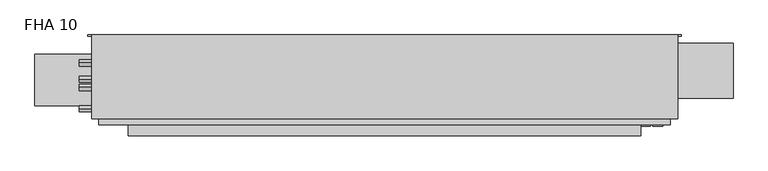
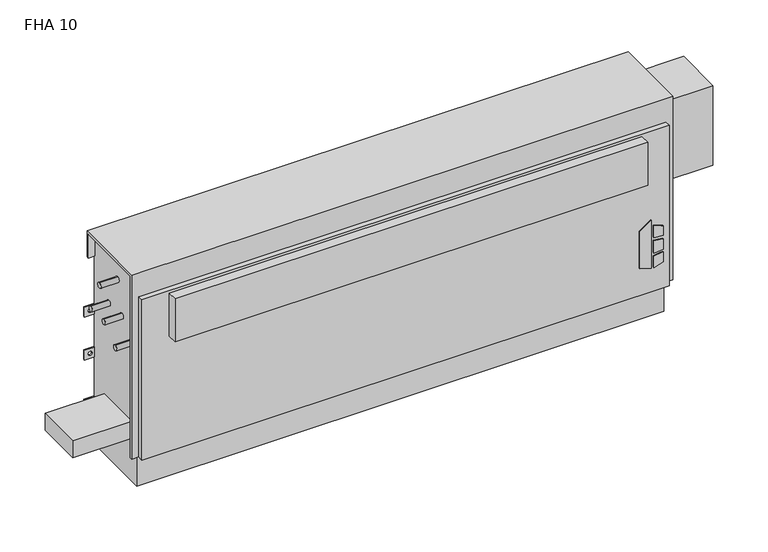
"""IFC4 building model written with IfcOpenShell, lengths in millimetres: proxy geometry, Vertical_Fan_Coil_Unit_-_FHA_-_IEC_-_4-Pipe_FS-FR_LH_2022 : FHA 10."""

import ifcopenshell
import ifcopenshell.guid

model = None  # the IFC model being written
_history = None  # IfcOwnerHistory: only IFC2X3 demands one
_inside = {}  # id of a spatial element -> (the spatial element, [elements in it])
_under = {}  # id of a project, library or spatial element -> (it, [spatial elements below it])
_declared = {}  # id of a project -> (the project, [libraries it declares])
_typed = {}  # id of a type object -> (the type object, [elements of that type])
_made_of = {}  # id of a material, layer set ... -> (it, [elements and type objects made of it])


def new_model(schema):
    """Start an empty IFC model of exactly this schema.

    Asked for "IFC4X3", IfcOpenShell would pick the latest addendum, in which some entities
    have other attributes; the version numbers below select the first issue.
    IFC2X3 requires an IfcOwnerHistory on every rooted entity: one is made here for all.
    """
    global model, _history
    if schema == "IFC4X3":
        model = ifcopenshell.file(schema_version=(4, 3, 0, 0))
    else:
        model = ifcopenshell.file(schema=schema)
    _inside.clear()
    _under.clear()
    _declared.clear()
    _typed.clear()
    _made_of.clear()
    _history = None
    if model.schema == "IFC2X3":
        org = make("IfcOrganization", Name="unknown")
        user = make(
            "IfcPersonAndOrganization",
            ThePerson=make("IfcPerson", FamilyName="unknown"),
            TheOrganization=org,
        )
        app = make(
            "IfcApplication",
            ApplicationDeveloper=org,
            Version="unknown",
            ApplicationFullName="unknown",
            ApplicationIdentifier="unknown",
        )
        _history = make(
            "IfcOwnerHistory",
            OwningUser=user,
            OwningApplication=app,
            ChangeAction="ADDED",
            CreationDate=0,
        )
    return model


def make(cls, **values):
    """One entity of the class cls with the attributes given. An attribute that is None is left unset."""
    return model.create_entity(
        cls, **{name: value for name, value in values.items() if value is not None}
    )


def rooted(cls, **values):
    """An entity with a GlobalId (a new one), such as an element, a storey or a relation."""
    return make(cls, GlobalId=ifcopenshell.guid.new(), OwnerHistory=_history, **values)


def si_unit(unit_type, name, prefix=None):
    """IfcSIUnit, for example si_unit("LENGTHUNIT", "METRE", prefix="MILLI")."""
    return make("IfcSIUnit", UnitType=unit_type, Prefix=prefix, Name=name)


def assignment(units):
    """IfcUnitAssignment: the units of a project."""
    return None if units is None else make("IfcUnitAssignment", Units=units)


def point(xyz):
    """IfcCartesianPoint."""
    return None if xyz is None else make("IfcCartesianPoint", Coordinates=xyz)


def direction(xyz):
    """IfcDirection."""
    return None if xyz is None else make("IfcDirection", DirectionRatios=xyz)


def frame(location, z_axis=None, x_axis=None):
    """IfcAxis2Placement3D, a coordinate frame: its origin and axes. An axis left out is left unset."""
    return make(
        "IfcAxis2Placement3D",
        Location=point(location),
        Axis=direction(z_axis),
        RefDirection=direction(x_axis),
    )


def frame_2d(location, x_axis=None):
    """IfcAxis2Placement2D, a coordinate frame in the plane: its origin and x axis."""
    return make(
        "IfcAxis2Placement2D", Location=point(location), RefDirection=direction(x_axis)
    )


def origin():
    """The frame at (0, 0, 0) with its axes left unset."""
    return frame((0.0, 0.0, 0.0))


def place(relative_to, where):
    """IfcLocalPlacement: puts the frame where relative to a parent placement (None: the world)."""
    return make(
        "IfcLocalPlacement", PlacementRelTo=relative_to, RelativePlacement=where
    )


def context(
    kind, dimensions, precision=None, world=None, true_north=None, identifier=None
):
    """IfcGeometricRepresentationContext, for example the 3D "Model" context."""
    return make(
        "IfcGeometricRepresentationContext",
        ContextIdentifier=identifier,
        ContextType=kind,
        CoordinateSpaceDimension=dimensions,
        Precision=precision,
        WorldCoordinateSystem=world,
        TrueNorth=true_north,
    )


def project(units=None, contexts=None):
    """IfcProject with its units and contexts."""
    return rooted(
        "IfcProject",
        Name="project",
        RepresentationContexts=contexts,
        UnitsInContext=assignment(units),
    )


def spatial(cls, under=None, at=None, **own):
    """A site, building, storey or space (cls), placed at a placement, below another one or the project."""
    s = rooted(cls, ObjectPlacement=at, **own)
    if under is not None:
        _under.setdefault(under.id(), (under, []))[1].append(s)
    return s


def polyline(points):
    """IfcPolyline through the points."""
    return make("IfcPolyline", Points=[point(p) for p in points])


def circle_curve(where, radius):
    """IfcCircle in the frame where."""
    return make("IfcCircle", Position=where, Radius=radius)


def trimmed(basis, trim1, trim2, sense, master):
    """IfcTrimmedCurve: the piece of a basis curve between two trims."""
    return make(
        "IfcTrimmedCurve",
        BasisCurve=basis,
        Trim1=trim1,
        Trim2=trim2,
        SenseAgreement=sense,
        MasterRepresentation=master,
    )


def segment(curve, same_sense, transition):
    """IfcCompositeCurveSegment."""
    return make(
        "IfcCompositeCurveSegment",
        Transition=transition,
        SameSense=same_sense,
        ParentCurve=curve,
    )


def composite_curve(segments, self_intersect=None):
    """IfcCompositeCurve: segments joined end to end."""
    return make("IfcCompositeCurve", Segments=segments, SelfIntersect=self_intersect)


def outline(outer, holes=None, kind="AREA"):
    """IfcArbitraryClosedProfileDef: a profile drawn as a closed curve; with holes, ...WithVoids."""
    if holes is None:
        return make("IfcArbitraryClosedProfileDef", ProfileType=kind, OuterCurve=outer)
    return make(
        "IfcArbitraryProfileDefWithVoids",
        ProfileType=kind,
        OuterCurve=outer,
        InnerCurves=holes,
    )


def extrude(swept, where, along, depth):
    """IfcExtrudedAreaSolid: the profile swept, set in the frame where, extruded along a direction by depth."""
    return make(
        "IfcExtrudedAreaSolid",
        SweptArea=swept,
        Position=where,
        ExtrudedDirection=direction(along),
        Depth=depth,
    )


def shape(context_of_items, identifier, shape_type, items):
    """IfcShapeRepresentation: the items that make up one representation, for example the "Body"."""
    return make(
        "IfcShapeRepresentation",
        ContextOfItems=context_of_items,
        RepresentationIdentifier=identifier,
        RepresentationType=shape_type,
        Items=items,
    )


def source(mapping_origin, context_of_items, identifier, shape_type, items):
    """IfcRepresentationMap: a shape defined once, which mapped items show again and again."""
    return make(
        "IfcRepresentationMap",
        MappingOrigin=mapping_origin,
        MappedRepresentation=shape(context_of_items, identifier, shape_type, items),
    )


def transform(
    local_origin,
    x_axis=None,
    y_axis=None,
    z_axis=None,
    scale=None,
    scale2=None,
    scale3=None,
    uniform=True,
):
    """IfcCartesianTransformationOperator3D, or its non-uniform kind. x_axis, y_axis, z_axis: its Axis1, 2, 3."""
    if uniform:
        return make(
            "IfcCartesianTransformationOperator3D",
            Axis1=direction(x_axis),
            Axis2=direction(y_axis),
            LocalOrigin=point(local_origin),
            Scale=scale,
            Axis3=direction(z_axis),
        )
    return make(
        "IfcCartesianTransformationOperator3DnonUniform",
        Axis1=direction(x_axis),
        Axis2=direction(y_axis),
        LocalOrigin=point(local_origin),
        Scale=scale,
        Axis3=direction(z_axis),
        Scale2=scale2,
        Scale3=scale3,
    )


def mapped(mapping_source, mapping_target):
    """IfcMappedItem: shows the shape of a source again, moved by a transform."""
    return make(
        "IfcMappedItem", MappingSource=mapping_source, MappingTarget=mapping_target
    )


def made_of(thing, what):
    """Note that an element or type object is made of a material, layer set ...; save() writes the relation."""
    if what is not None:
        _made_of.setdefault(what.id(), (what, []))[1].append(thing)
    return thing


def element(
    cls,
    number,
    at=None,
    inside=None,
    cuts=None,
    type_object=None,
    material=None,
    context=None,
    identifier="Body",
    shape_type=None,
    held_by="IfcProductDefinitionShape",
    body=None,
    shapes=None,
    **own,
):
    """One element of the class cls, such as IfcWall. Its Tag is "e" and its number.

    at: its placement. inside: the storey or other place that contains it. cuts: it is an
    opening in that element (IfcRelVoidsElement). A single representation is given by context,
    identifier, shape_type and body (its items); several are given by shapes. held_by: the class
    of the entity that holds the representations. save() writes the other relations.
    """
    e = rooted(cls, Tag="e%d" % number, ObjectPlacement=at, **own)
    if body is not None:
        shapes = [shape(context, identifier, shape_type, body)]
    if shapes is not None:
        e.Representation = make(held_by, Representations=shapes)
    if inside is not None:
        _inside.setdefault(inside.id(), (inside, []))[1].append(e)
    if cuts is not None:
        rooted(
            "IfcRelVoidsElement", RelatingBuildingElement=cuts, RelatedOpeningElement=e
        )
    if type_object is not None:
        _typed.setdefault(type_object.id(), (type_object, []))[1].append(e)
    return made_of(e, material)


def aggregate(whole, parts):
    """IfcRelAggregates: a whole, such as a stair, and the parts it consists of."""
    return rooted("IfcRelAggregates", RelatingObject=whole, RelatedObjects=parts)


def save(model, path):
    """Write the relations noted so far, then the file.

    IfcRelAggregates (storeys below a building ...), IfcRelContainedInSpatialStructure (elements
    in a storey), IfcRelDefinesByType, IfcRelAssociatesMaterial and IfcRelDeclares: one each for
    every whole, place, type object, material and project.
    """
    for whole, parts in _under.values():
        aggregate(whole, parts)
    for where, things in _inside.values():
        rooted(
            "IfcRelContainedInSpatialStructure",
            RelatedElements=things,
            RelatingStructure=where,
        )
    for kind, things in _typed.values():
        rooted("IfcRelDefinesByType", RelatedObjects=things, RelatingType=kind)
    for what, things in _made_of.values():
        rooted("IfcRelAssociatesMaterial", RelatedObjects=things, RelatingMaterial=what)
    for by, libraries in _declared.values():
        rooted("IfcRelDeclares", RelatingContext=by, RelatedDefinitions=libraries)
    model.write(path)


def plane_surface(at):
    """IfcPlane: the flat surface through the origin of the frame at, square to its z axis."""
    return make("IfcPlane", Position=at)


def revolved_surface(curve, axis_point, axis_direction):
    """IfcSurfaceOfRevolution: the curve turned about the line through axis_point along axis_direction."""
    return make(
        "IfcSurfaceOfRevolution",
        SweptCurve=make("IfcArbitraryOpenProfileDef", ProfileType="CURVE", Curve=curve),
        AxisPosition=make("IfcAxis1Placement", Location=point(axis_point), Axis=direction(axis_direction)),
    )


def advanced_brep(points, edges, surfaces, faces):
    """IfcAdvancedBrep: a solid bounded by faces that lie on surfaces and meet in shared edges.

    An edge is (start, end): straight between two places in points (the first is 0);
    or (start, end, curve); or (start, end, curve, False) where it runs against its curve.
    A face is (place in surfaces, loops), or (place, loops, False) where it looks against
    its surface's normal. A loop lists edges by number (the first is 1), with a minus sign
    where the edge is run from its end to its start. The first loop is the outer one.
    """
    corners = [point(p) for p in points]
    vertices = [make("IfcVertexPoint", VertexGeometry=c) for c in corners]
    made = []
    for start, end, *more in edges:
        made.append(
            make(
                "IfcEdgeCurve",
                EdgeStart=vertices[start],
                EdgeEnd=vertices[end],
                EdgeGeometry=more[0] if more else make("IfcPolyline", Points=[corners[start], corners[end]]),
                SameSense=more[1] if len(more) > 1 else True,
            )
        )
    hull = []
    for where, loops, *sense in faces:
        bounds = []
        for j, loop in enumerate(loops):
            ring = [make("IfcOrientedEdge", EdgeElement=made[abs(k) - 1], Orientation=k > 0) for k in loop]
            bounds.append(
                make(
                    "IfcFaceOuterBound" if j == 0 else "IfcFaceBound",
                    Bound=make("IfcEdgeLoop", EdgeList=ring),
                    Orientation=True,
                )
            )
        hull.append(make("IfcAdvancedFace", Bounds=bounds, FaceSurface=surfaces[where], SameSense=sense[0] if sense else True))
    return make("IfcAdvancedBrep", Outer=make("IfcClosedShell", CfsFaces=hull))


def fha_10_918f5362(model_context):
    return source(origin(), model_context, "Body", "SolidModel", [
        extrude(outline(polyline([(172.5771459, 804.9368862), (162.6290756, 837.1102728), (304.8, 837.1102728), (281.7779939, 804.9368862), (172.5771459, 804.9368862)])), frame((0.0, 9.525, 0.0), z_axis=(0.0, 1.0, 0.0), x_axis=(0.0, 0.0, 1.0)), (0.0, 0.0, 1.0), 3.175),
        extrude(outline(polyline([(251.5764313, 843.8686058), (248.3740387, 869.95), (277.6028798, 869.95), (285.6672948, 843.8686058), (251.5764313, 843.8686058)])), frame((0.0, 9.525, 0.0), z_axis=(0.0, 1.0, 0.0), x_axis=(0.0, 0.0, 1.0)), (0.0, 0.0, 1.0), 3.175),
        extrude(outline(polyline([(199.7129044, 869.95), (196.0474034, 843.8686058), (162.6290756, 843.8686058), (171.2633128, 869.95), (199.7129044, 869.95)])), frame((0.0, 9.525, 0.0), z_axis=(0.0, 1.0, 0.0), x_axis=(0.0, 0.0, 1.0)), (0.0, 0.0, 1.0), 3.175),
        extrude(outline(polyline([(239.0280658, 869.95), (241.3098921, 843.8686058), (205.3723436, 843.8686058), (208.1136086, 869.95), (239.0280658, 869.95)])), frame((0.0, 9.525, 0.0), z_axis=(0.0, 1.0, 0.0), x_axis=(0.0, 0.0, 1.0)), (0.0, 0.0, 1.0), 3.175),
        extrude(outline(composite_curve([segment(trimmed(circle_curve(frame_2d((-647.7, 128.5875)), 9.525), [point((-657.225, 128.5875))], [point((-638.175, 128.5875))], False, "CARTESIAN"), True, "CONTINUOUS"), segment(trimmed(circle_curve(frame_2d((-647.7, 128.5875)), 9.525), [point((-638.175, 128.5875))], [point((-657.225, 128.5875))], False, "CARTESIAN"), True, "CONTINUOUS")], self_intersect=False)), frame((0.0, 0.0, 101.6), z_axis=(0.0, 0.0, 1.0), x_axis=(1.0, 0.0, 0.0)), (0.0, 0.0, 1.0), 25.4),
        extrude(outline(polyline([(-749.3, 61.9125), (-749.3, 195.2625), (-584.2, 195.2625), (-584.2, 61.9125), (-749.3, 61.9125)])), frame((0.0, 0.0, 127.0), z_axis=(0.0, 0.0, 1.0), x_axis=(1.0, 0.0, 0.0)), (0.0, 0.0, 1.0), 50.8),
        extrude(outline(polyline([(812.8, -15.875), (-508.0, -15.875), (-508.0, 12.7), (812.8, 12.7), (812.8, -15.875)])), frame((0.0, 0.0, 431.8), z_axis=(0.0, 0.0, 1.0), x_axis=(1.0, 0.0, 0.0)), (0.0, 0.0, 1.0), 127.0),
        extrude(outline(composite_curve([segment(trimmed(circle_curve(frame_2d((109.0168, 460.0194)), 7.9375), [point((109.0168, 467.9569))], [point((109.0168, 452.0819))], False, "CARTESIAN"), True, "CONTINUOUS"), segment(trimmed(circle_curve(frame_2d((109.0168, 460.0194)), 7.9375), [point((109.0168, 452.0819))], [point((109.0168, 467.9569))], False, "CARTESIAN"), True, "CONTINUOUS")], self_intersect=False)), frame((-635.0, 0.0, 0.0), z_axis=(1.0, 0.0, 0.0), x_axis=(0.0, 1.0, 0.0)), (0.0, 0.0, 1.0), 50.8),
        extrude(outline(composite_curve([segment(trimmed(circle_curve(frame_2d((172.085, 460.0194)), 7.9375), [point((172.085, 467.9569))], [point((172.085, 452.0819))], False, "CARTESIAN"), True, "CONTINUOUS"), segment(trimmed(circle_curve(frame_2d((172.085, 460.0194)), 7.9375), [point((172.085, 452.0819))], [point((172.085, 467.9569))], False, "CARTESIAN"), True, "CONTINUOUS")], self_intersect=False)), frame((-635.0, 0.0, 0.0), z_axis=(1.0, 0.0, 0.0), x_axis=(0.0, 1.0, 0.0)), (0.0, 0.0, 1.0), 50.8),
        extrude(outline(composite_curve([segment(trimmed(circle_curve(frame_2d((130.175, 554.99)), 7.9502), [point((130.175, 562.9402))], [point((130.175, 547.0398))], False, "CARTESIAN"), True, "CONTINUOUS"), segment(trimmed(circle_curve(frame_2d((130.175, 554.99)), 7.9502), [point((130.175, 547.0398))], [point((130.175, 562.9402))], False, "CARTESIAN"), True, "CONTINUOUS")], self_intersect=False)), frame((-635.0, 0.0, 0.0), z_axis=(1.0, 0.0, 0.0), x_axis=(0.0, 1.0, 0.0)), (0.0, 0.0, 1.0), 50.8),
        extrude(outline(composite_curve([segment(trimmed(circle_curve(frame_2d((53.975, 416.56)), 7.9502), [point((53.975, 424.5102))], [point((53.975, 408.6098))], False, "CARTESIAN"), True, "CONTINUOUS"), segment(trimmed(circle_curve(frame_2d((53.975, 416.56)), 7.9502), [point((53.975, 408.6098))], [point((53.975, 424.5102))], False, "CARTESIAN"), True, "CONTINUOUS")], self_intersect=False)), frame((-635.0, 0.0, 0.0), z_axis=(1.0, 0.0, 0.0), x_axis=(0.0, 1.0, 0.0)), (0.0, 0.0, 1.0), 50.8),
        extrude(outline(polyline([(1050.925, 223.266), (1050.925, 81.534), (889.0, 81.534), (889.0, 223.266), (1050.925, 223.266)])), frame((0.0, 0.0, 349.25), z_axis=(0.0, 0.0, 1.0), x_axis=(1.0, 0.0, 0.0)), (0.0, 0.0, 1.0), 234.95),
        advanced_brep(
        [(908.05, 244.475, 635.0), (-603.25, 244.475, 635.0), (-603.25, 28.575, 635.0), (908.05, 28.575, 635.0), (-584.2, 244.475, 0.0), (889.0, 244.475, 0.0), (889.0, 38.1, 0.0), (-584.2, 38.1, 0.0), (908.05, 244.475, 558.8), (889.0, 244.475, 558.8), (889.0, 244.475, 414.3375), (917.575, 244.475, 414.3375), (917.575, 244.475, 385.7625), (889.0, 244.475, 385.7625), (889.0, 244.475, 287.3375), (917.575, 244.475, 287.3375), (917.575, 244.475, 258.7625), (889.0, 244.475, 258.7625), (889.0, 244.475, 141.2875), (917.575, 244.475, 141.2875), (917.575, 244.475, 112.7125), (889.0, 244.475, 112.7125), (-584.2, 244.475, 112.7125), (-612.775, 244.475, 112.7125), (-612.775, 244.475, 141.2875), (-584.2, 244.475, 141.2875), (-584.2, 244.475, 258.7625), (-612.775, 244.475, 258.7625), (-612.775, 244.475, 287.3375), (-584.2, 244.475, 287.3375), (-584.2, 244.475, 385.7625), (-612.775, 244.475, 385.7625), (-612.775, 244.475, 414.3375), (-584.2, 244.475, 414.3375), (-584.2, 244.475, 558.8), (-603.25, 244.475, 558.8), (907.2626, 244.475, 127.0), (896.1374, 244.475, 127.0), (-591.3374, 244.475, 127.0), (-602.4626, 244.475, 127.0), (907.2626, 244.475, 273.05), (896.1374, 244.475, 273.05), (-591.3374, 244.475, 273.05), (-602.4626, 244.475, 273.05), (907.2626, 244.475, 400.05), (896.1374, 244.475, 400.05), (-591.3374, 244.475, 400.05), (-602.4626, 244.475, 400.05), (-603.25, 238.125, 558.8), (-603.25, 238.125, 628.65), (-603.25, 34.925, 628.65), (-603.25, 34.925, 92.075), (-603.25, 28.575, 92.075), (889.0, 12.7, 565.15), (-584.2, 12.7, 565.15), (-584.2, 12.7, 92.075), (889.0, 12.7, 92.075), (908.05, 28.575, 92.075), (908.05, 34.925, 92.075), (908.05, 34.925, 628.65), (908.05, 238.125, 628.65), (908.05, 238.125, 558.8), (-584.2, 28.575, 92.075), (-584.2, 28.575, 565.15), (889.0, 28.575, 565.15), (889.0, 28.575, 92.075), (-584.2, 34.925, 92.075), (-584.2, 38.1, 92.075), (889.0, 38.1, 92.075), (889.0, 34.925, 92.075), (889.0, 241.3, 112.7125), (889.0, 241.3, 141.2875), (889.0, 241.3, 258.7625), (889.0, 241.3, 287.3375), (889.0, 241.3, 385.7625), (889.0, 241.3, 414.3375), (889.0, 238.125, 558.8), (889.0, 238.125, 628.65), (889.0, 34.925, 628.65), (-584.2, 34.925, 628.65), (-584.2, 238.125, 628.65), (-584.2, 238.125, 558.8), (-584.2, 241.3, 414.3375), (-584.2, 241.3, 385.7625), (-584.2, 241.3, 287.3375), (-584.2, 241.3, 258.7625), (-584.2, 241.3, 141.2875), (-584.2, 241.3, 112.7125), (917.575, 241.3, 112.7125), (917.575, 241.3, 141.2875), (896.1374, 241.3, 127.0), (907.2626, 241.3, 127.0), (917.575, 241.3, 258.7625), (917.575, 241.3, 287.3375), (896.1374, 241.3, 273.05), (907.2626, 241.3, 273.05), (917.575, 241.3, 385.7625), (917.575, 241.3, 414.3375), (896.1374, 241.3, 400.05), (907.2626, 241.3, 400.05), (-612.775, 241.3, 141.2875), (-612.775, 241.3, 112.7125), (-602.4626, 241.3, 127.0), (-591.3374, 241.3, 127.0), (-612.775, 241.3, 287.3375), (-612.775, 241.3, 258.7625), (-602.4626, 241.3, 273.05), (-591.3374, 241.3, 273.05), (-612.775, 241.3, 414.3375), (-612.775, 241.3, 385.7625), (-602.4626, 241.3, 400.05), (-591.3374, 241.3, 400.05)],
        [
            (0, 1),
            (1, 2),
            (2, 3),
            (3, 0),
            (4, 5),
            (5, 6),
            (6, 7),
            (7, 4),
            (0, 8),
            (8, 9),
            (9, 10),
            (10, 11),
            (11, 12),
            (12, 13),
            (13, 14),
            (14, 15),
            (15, 16),
            (16, 17),
            (17, 18),
            (18, 19),
            (19, 20),
            (20, 21),
            (21, 5),
            (4, 22),
            (22, 23),
            (23, 24),
            (24, 25),
            (25, 26),
            (26, 27),
            (27, 28),
            (28, 29),
            (29, 30),
            (30, 31),
            (31, 32),
            (32, 33),
            (33, 34),
            (34, 35),
            (35, 1),
            (36, 37, circle_curve(frame((901.7, 244.475, 127.0), z_axis=(0.0, -1.0, 0.0), x_axis=(-1.0, 0.0, 0.0)), 5.5626)),
            (37, 36, circle_curve(frame((901.7, 244.475, 127.0), z_axis=(0.0, -1.0, 0.0), x_axis=(-1.0, 0.0, 0.0)), 5.5626)),
            (38, 39, circle_curve(frame((-596.9, 244.475, 127.0), z_axis=(0.0, -1.0, 0.0), x_axis=(-1.0, 0.0, 0.0)), 5.5626)),
            (39, 38, circle_curve(frame((-596.9, 244.475, 127.0), z_axis=(0.0, -1.0, 0.0), x_axis=(-1.0, 0.0, 0.0)), 5.5626)),
            (40, 41, circle_curve(frame((901.7, 244.475, 273.05), z_axis=(0.0, -1.0, 0.0), x_axis=(-1.0, 0.0, 0.0)), 5.5626)),
            (41, 40, circle_curve(frame((901.7, 244.475, 273.05), z_axis=(0.0, -1.0, 0.0), x_axis=(-1.0, 0.0, 0.0)), 5.5626)),
            (42, 43, circle_curve(frame((-596.9, 244.475, 273.05), z_axis=(0.0, -1.0, 0.0), x_axis=(-1.0, 0.0, 0.0)), 5.5626)),
            (43, 42, circle_curve(frame((-596.9, 244.475, 273.05), z_axis=(0.0, -1.0, 0.0), x_axis=(-1.0, 0.0, 0.0)), 5.5626)),
            (44, 45, circle_curve(frame((901.7, 244.475, 400.05), z_axis=(0.0, -1.0, 0.0), x_axis=(-1.0, 0.0, 0.0)), 5.5626)),
            (45, 44, circle_curve(frame((901.7, 244.475, 400.05), z_axis=(0.0, -1.0, 0.0), x_axis=(-1.0, 0.0, 0.0)), 5.5626)),
            (46, 47, circle_curve(frame((-596.9, 244.475, 400.05), z_axis=(0.0, -1.0, 0.0), x_axis=(-1.0, 0.0, 0.0)), 5.5626)),
            (47, 46, circle_curve(frame((-596.9, 244.475, 400.05), z_axis=(0.0, -1.0, 0.0), x_axis=(-1.0, 0.0, 0.0)), 5.5626)),
            (35, 48),
            (48, 49),
            (49, 50),
            (50, 51),
            (51, 52),
            (52, 2),
            (53, 54),
            (54, 55),
            (55, 56),
            (56, 53),
            (3, 57),
            (57, 58),
            (58, 59),
            (59, 60),
            (60, 61),
            (61, 8),
            (52, 62),
            (62, 63),
            (63, 64),
            (64, 65),
            (65, 57),
            (53, 64),
            (63, 54),
            (55, 62),
            (51, 66),
            (66, 67),
            (67, 68),
            (68, 69),
            (69, 58),
            (65, 56),
            (6, 68),
            (67, 7),
            (21, 70),
            (70, 71),
            (71, 18),
            (17, 72),
            (72, 73),
            (73, 14),
            (13, 74),
            (74, 75),
            (75, 10),
            (9, 76),
            (76, 77),
            (77, 78),
            (78, 69),
            (66, 79),
            (79, 80),
            (80, 81),
            (81, 34),
            (33, 82),
            (82, 83),
            (83, 30),
            (29, 84),
            (84, 85),
            (85, 26),
            (25, 86),
            (86, 87),
            (87, 22),
            (76, 61),
            (60, 77),
            (78, 59),
            (50, 79),
            (81, 48),
            (80, 49),
            (70, 88),
            (88, 89),
            (89, 71),
            (90, 91, circle_curve(frame((901.7, 241.3, 127.0), z_axis=(0.0, 1.0, 0.0), x_axis=(-1.0, 0.0, 0.0)), 5.5626)),
            (91, 90, circle_curve(frame((901.7, 241.3, 127.0), z_axis=(0.0, 1.0, 0.0), x_axis=(-1.0, 0.0, 0.0)), 5.5626)),
            (92, 93),
            (93, 73),
            (72, 92),
            (94, 95, circle_curve(frame((901.7, 241.3, 273.05), z_axis=(0.0, 1.0, 0.0), x_axis=(-1.0, 0.0, 0.0)), 5.5626)),
            (95, 94, circle_curve(frame((901.7, 241.3, 273.05), z_axis=(0.0, 1.0, 0.0), x_axis=(-1.0, 0.0, 0.0)), 5.5626)),
            (96, 97),
            (97, 75),
            (74, 96),
            (98, 99, circle_curve(frame((901.7, 241.3, 400.05), z_axis=(0.0, 1.0, 0.0), x_axis=(-1.0, 0.0, 0.0)), 5.5626)),
            (99, 98, circle_curve(frame((901.7, 241.3, 400.05), z_axis=(0.0, 1.0, 0.0), x_axis=(-1.0, 0.0, 0.0)), 5.5626)),
            (100, 101),
            (101, 87),
            (86, 100),
            (102, 103, circle_curve(frame((-596.9, 241.3, 127.0), z_axis=(0.0, 1.0, 0.0), x_axis=(-1.0, 0.0, 0.0)), 5.5626)),
            (103, 102, circle_curve(frame((-596.9, 241.3, 127.0), z_axis=(0.0, 1.0, 0.0), x_axis=(-1.0, 0.0, 0.0)), 5.5626)),
            (84, 104),
            (104, 105),
            (105, 85),
            (106, 107, circle_curve(frame((-596.9, 241.3, 273.05), z_axis=(0.0, 1.0, 0.0), x_axis=(-1.0, 0.0, 0.0)), 5.5626)),
            (107, 106, circle_curve(frame((-596.9, 241.3, 273.05), z_axis=(0.0, 1.0, 0.0), x_axis=(-1.0, 0.0, 0.0)), 5.5626)),
            (108, 109),
            (109, 83),
            (82, 108),
            (110, 111, circle_curve(frame((-596.9, 241.3, 400.05), z_axis=(0.0, 1.0, 0.0), x_axis=(-1.0, 0.0, 0.0)), 5.5626)),
            (111, 110, circle_curve(frame((-596.9, 241.3, 400.05), z_axis=(0.0, 1.0, 0.0), x_axis=(-1.0, 0.0, 0.0)), 5.5626)),
            (89, 19),
            (88, 20),
            (16, 92),
            (93, 15),
            (12, 96),
            (97, 11),
            (24, 100),
            (101, 23),
            (105, 27),
            (104, 28),
            (32, 108),
            (109, 31),
            (90, 37),
            (36, 91),
            (102, 39),
            (38, 103),
            (94, 41),
            (40, 95),
            (106, 43),
            (42, 107),
            (98, 45),
            (44, 99),
            (110, 47),
            (46, 111),
        ],
        [
            plane_surface(frame((-603.25, 244.475, 635.0), z_axis=(0.0, 0.0, 1.0), x_axis=(-1.0, 0.0, 0.0))),
            plane_surface(frame((-603.25, 244.475, 0.0), z_axis=(0.0, 0.0, -1.0), x_axis=(1.0, 0.0, 0.0))),
            plane_surface(frame((908.05, 244.475, 635.0), z_axis=(0.0, 1.0, 0.0), x_axis=(0.0, 0.0, -1.0))),
            plane_surface(frame((-603.25, 244.475, 635.0), z_axis=(-1.0, 0.0, 0.0), x_axis=(0.0, 0.0, -1.0))),
            plane_surface(frame((-603.25, 12.7, 635.0), z_axis=(0.0, -1.0, 0.0), x_axis=(0.0, 0.0, -1.0))),
            plane_surface(frame((908.05, 12.7, 635.0), z_axis=(1.0, 0.0, 0.0), x_axis=(0.0, 0.0, -1.0))),
            plane_surface(frame((-1060.45, 28.575, 635.0), z_axis=(0.0, -1.0, 0.0), x_axis=(1.0, 0.0, 0.0))),
            plane_surface(frame((-1060.45, 28.575, 565.15), z_axis=(0.0, 0.0, 1.0), x_axis=(1.0, 0.0, 0.0))),
            plane_surface(frame((-603.25, 12.7, 92.075), z_axis=(0.0, 0.0, -1.0), x_axis=(1.0, 0.0, 0.0))),
            plane_surface(frame((-603.25, 38.1, 92.075), z_axis=(0.0, -1.0, 0.0), x_axis=(1.0, 0.0, 0.0))),
            plane_surface(frame((889.0, 28.575, 92.075), z_axis=(1.0, 0.0, 0.0), x_axis=(0.0, -1.0, 0.0))),
            plane_surface(frame((-584.2, 28.575, 565.15), z_axis=(-1.0, 0.0, 0.0), x_axis=(0.0, -1.0, 0.0))),
            plane_surface(frame((889.0, 244.475, 0.0), z_axis=(1.0, 0.0, 0.0), x_axis=(0.0, -1.0, 0.0))),
            plane_surface(frame((-584.2, 244.475, 92.075), z_axis=(-1.0, 0.0, 0.0), x_axis=(0.0, -1.0, 0.0))),
            plane_surface(frame((889.0, 238.125, 628.65), z_axis=(0.0, -1.0, 0.0), x_axis=(1.0, 0.0, 0.0))),
            plane_surface(frame((889.0, 238.125, 558.8), z_axis=(0.0, 0.0, -1.0), x_axis=(1.0, 0.0, 0.0))),
            plane_surface(frame((889.0, 34.925, 92.075), z_axis=(0.0, 1.0, 0.0), x_axis=(1.0, 0.0, 0.0))),
            plane_surface(frame((889.0, 34.925, 628.65), z_axis=(0.0, 0.0, -1.0), x_axis=(1.0, 0.0, 0.0))),
            plane_surface(frame((-584.2, 34.925, 628.65), z_axis=(0.0, 1.0, 0.0), x_axis=(-1.0, 0.0, 0.0))),
            plane_surface(frame((-584.2, 244.475, 558.8), z_axis=(0.0, 0.0, -1.0), x_axis=(-1.0, 0.0, 0.0))),
            plane_surface(frame((-584.2, 238.125, 558.8), z_axis=(0.0, -1.0, 0.0), x_axis=(-1.0, 0.0, 0.0))),
            plane_surface(frame((-584.2, 238.125, 628.65), z_axis=(0.0, 0.0, -1.0), x_axis=(-1.0, 0.0, 0.0))),
            plane_surface(frame((917.575, 241.3, 141.2875), z_axis=(0.0, -1.0, 0.0), x_axis=(-1.0, 0.0, 0.0))),
            plane_surface(frame((889.0, 244.475, 141.2875), z_axis=(0.0, 0.0, 1.0), x_axis=(0.0, -1.0, 0.0))),
            plane_surface(frame((917.575, 244.475, 141.2875), z_axis=(1.0, 0.0, 0.0), x_axis=(0.0, -1.0, 0.0))),
            plane_surface(frame((917.575, 244.475, 112.7125), z_axis=(0.0, 0.0, -1.0), x_axis=(0.0, -1.0, 0.0))),
            plane_surface(frame((917.575, 244.475, 258.7625), z_axis=(0.0, 0.0, -1.0), x_axis=(0.0, -1.0, 0.0))),
            plane_surface(frame((889.0, 244.475, 287.3375), z_axis=(0.0, 0.0, 1.0), x_axis=(0.0, -1.0, 0.0))),
            plane_surface(frame((917.575, 244.475, 287.3375), z_axis=(1.0, 0.0, 0.0), x_axis=(0.0, -1.0, 0.0))),
            plane_surface(frame((917.575, 244.475, 385.7625), z_axis=(0.0, 0.0, -1.0), x_axis=(0.0, -1.0, 0.0))),
            plane_surface(frame((889.0, 244.475, 414.3375), z_axis=(0.0, 0.0, 1.0), x_axis=(0.0, -1.0, 0.0))),
            plane_surface(frame((917.575, 244.475, 414.3375), z_axis=(1.0, 0.0, 0.0), x_axis=(0.0, -1.0, 0.0))),
            plane_surface(frame((-612.775, 244.475, 141.2875), z_axis=(0.0, 0.0, 1.0), x_axis=(0.0, -1.0, 0.0))),
            plane_surface(frame((-584.2, 244.475, 112.7125), z_axis=(0.0, 0.0, -1.0), x_axis=(0.0, -1.0, 0.0))),
            plane_surface(frame((-612.775, 244.475, 112.7125), z_axis=(-1.0, 0.0, 0.0), x_axis=(0.0, -1.0, 0.0))),
            plane_surface(frame((-584.2, 244.475, 258.7625), z_axis=(0.0, 0.0, -1.0), x_axis=(0.0, -1.0, 0.0))),
            plane_surface(frame((-612.775, 244.475, 258.7625), z_axis=(-1.0, 0.0, 0.0), x_axis=(0.0, -1.0, 0.0))),
            plane_surface(frame((-612.775, 244.475, 287.3375), z_axis=(0.0, 0.0, 1.0), x_axis=(0.0, -1.0, 0.0))),
            plane_surface(frame((-612.775, 244.475, 414.3375), z_axis=(0.0, 0.0, 1.0), x_axis=(0.0, -1.0, 0.0))),
            plane_surface(frame((-584.2, 244.475, 385.7625), z_axis=(0.0, 0.0, -1.0), x_axis=(0.0, -1.0, 0.0))),
            plane_surface(frame((-612.775, 244.475, 385.7625), z_axis=(-1.0, 0.0, 0.0), x_axis=(0.0, -1.0, 0.0))),
            revolved_surface(polyline([(896.1374000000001, 241.3, 127.0), (896.1374000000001, 244.475, 127.0)]), (901.7, 244.475, 127.0), (0.0, -1.0, 0.0)),
            revolved_surface(polyline([(-602.4626, 241.3, 127.0), (-602.4626, 244.475, 127.0)]), (-596.9, 244.475, 127.0), (0.0, -1.0, 0.0)),
            revolved_surface(polyline([(896.1374000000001, 241.3, 273.05), (896.1374000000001, 244.475, 273.05)]), (901.7, 244.475, 273.05), (0.0, -1.0, 0.0)),
            revolved_surface(polyline([(-602.4626, 241.3, 273.05), (-602.4626, 244.475, 273.05)]), (-596.9, 244.475, 273.05), (0.0, -1.0, 0.0)),
            revolved_surface(polyline([(896.1374000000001, 241.3, 400.05), (896.1374000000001, 244.475, 400.05)]), (901.7, 244.475, 400.05), (0.0, -1.0, 0.0)),
            revolved_surface(polyline([(-602.4626, 241.3, 400.05), (-602.4626, 244.475, 400.05)]), (-596.9, 244.475, 400.05), (0.0, -1.0, 0.0)),
        ],
        [
            (0, [[1, 2, 3, 4]]),
            (1, [[5, 6, 7, 8]]),
            (2, [[-1, 9, 10, 11, 12, 13, 14, 15, 16, 17, 18, 19, 20, 21, 22, 23, -5, 24, 25, 26, 27, 28, 29, 30, 31, 32, 33, 34, 35, 36, 37, 38], [39, 40], [41, 42], [43, 44], [45, 46], [47, 48], [49, 50]]),
            (3, [[-2, -38, 51, 52, 53, 54, 55, 56]]),
            (4, [[57, 58, 59, 60]]),
            (5, [[-4, 61, 62, 63, 64, 65, 66, -9]]),
            (6, [[-3, -56, 67, 68, 69, 70, 71, -61]]),
            (7, [[-57, 72, -69, 73]]),
            (8, [[-59, 74, -67, -55, 75, 76, 77, 78, 79, -62, -71, 80]]),
            (9, [[-7, 81, -77, 82]]),
            (10, [[-70, -72, -60, -80]]),
            (11, [[-68, -74, -58, -73]]),
            (12, [[-6, -23, 83, 84, 85, -19, 86, 87, 88, -15, 89, 90, 91, -11, 92, 93, 94, 95, -78, -81]]),
            (13, [[-8, -82, -76, 96, 97, 98, 99, -36, 100, 101, 102, -32, 103, 104, 105, -28, 106, 107, 108, -24]]),
            (14, [[-93, 109, -65, 110]]),
            (15, [[-92, -10, -66, -109]]),
            (16, [[-95, 111, -63, -79]]),
            (17, [[-94, -110, -64, -111]]),
            (18, [[-96, -75, -54, 112]]),
            (19, [[-99, 113, -51, -37]]),
            (20, [[-98, 114, -52, -113]]),
            (21, [[-97, -112, -53, -114]]),
            (22, [[115, 116, 117, -84], [118, 119]]),
            (22, [[120, 121, -87, 122], [123, 124]]),
            (22, [[125, 126, -90, 127], [128, 129]]),
            (22, [[130, 131, -107, 132], [133, 134]]),
            (22, [[135, 136, 137, -104], [138, 139]]),
            (22, [[140, 141, -101, 142], [143, 144]]),
            (23, [[-117, 145, -20, -85]]),
            (24, [[-116, 146, -21, -145]]),
            (25, [[-115, -83, -22, -146]]),
            (26, [[-122, -86, -18, 147]]),
            (27, [[-121, 148, -16, -88]]),
            (28, [[-120, -147, -17, -148]]),
            (29, [[-127, -89, -14, 149]]),
            (30, [[-126, 150, -12, -91]]),
            (31, [[-125, -149, -13, -150]]),
            (32, [[-132, -106, -27, 151]]),
            (33, [[-131, 152, -25, -108]]),
            (34, [[-130, -151, -26, -152]]),
            (35, [[-137, 153, -29, -105]]),
            (36, [[-136, 154, -30, -153]]),
            (37, [[-135, -103, -31, -154]]),
            (38, [[-142, -100, -35, 155]]),
            (39, [[-141, 156, -33, -102]]),
            (40, [[-140, -155, -34, -156]]),
            (41, [[157, -39, 158, -118]]),
            (41, [[-157, -119, -158, -40]]),
            (42, [[159, -41, 160, -133]]),
            (42, [[-159, -134, -160, -42]]),
            (43, [[161, -43, 162, -123]]),
            (43, [[-161, -124, -162, -44]]),
            (44, [[163, -45, 164, -138]]),
            (44, [[-163, -139, -164, -46]]),
            (45, [[165, -47, 166, -128]]),
            (45, [[-165, -129, -166, -48]]),
            (46, [[167, -49, 168, -143]]),
            (46, [[-167, -144, -168, -50]]),
        ],
    ),
    ])


if __name__ == "__main__":
    model = new_model("IFC4")
    model_context = context("Model", 3, world=origin())
    ifc_project = project(units=[si_unit("LENGTHUNIT", "METRE", prefix="MILLI")], contexts=[model_context])
    site = spatial("IfcSite", under=ifc_project)
    building = spatial("IfcBuilding", under=site)
    placement = place(None, origin())
    fha_10_shape = fha_10_918f5362(model_context)
    element("IfcBuildingElementProxy", 1, Name="Vertical_Fan_Coil_Unit_-_FHA_-_IEC_-_4-Pipe_FS-FR_LH_2022 : FHA 10", ObjectType="Vertical_Fan_Coil_Unit_-_FHA_-_IEC_-_4-Pipe_FS-FR_LH_2022 : FHA 10", at=placement, inside=building, context=model_context, shape_type="MappedRepresentation", body=[
        mapped(fha_10_shape, transform((0.0, 0.0, 0.0), x_axis=(1.0, 0.0, 0.0), y_axis=(0.0, 1.0, 0.0), z_axis=(0.0, 0.0, 1.0))),
    ])
    save(model, "model.ifc")
